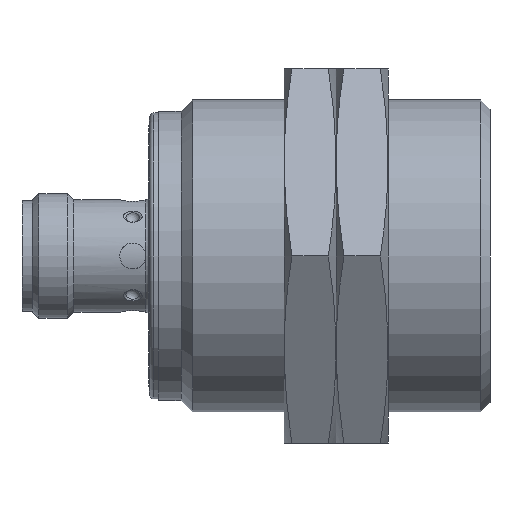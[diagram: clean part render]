
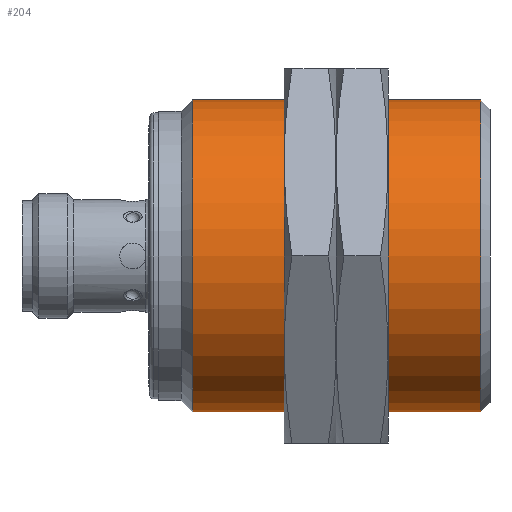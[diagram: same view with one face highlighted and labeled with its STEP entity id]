
A CAD part, front view. The second image highlights one B-rep face of the part: STEP entity #204.
In plain terms, the highlighted cylindrical face has radius 15 mm (diameter 30 mm), a full revolution.
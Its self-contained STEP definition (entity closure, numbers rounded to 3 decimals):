
#204 = ADVANCED_FACE( '', ( #310, #311 ), #312, .T. );
#310 = FACE_OUTER_BOUND( '', #478, .T. );
#311 = FACE_OUTER_BOUND( '', #479, .T. );
#312 = CYLINDRICAL_SURFACE( '', #480, 15. );
#478 = EDGE_LOOP( '', ( #723 ) );
#479 = EDGE_LOOP( '', ( #724 ) );
#480 = AXIS2_PLACEMENT_3D( '', #725, #726, #727 );
#723 = ORIENTED_EDGE( '', *, *, #981, .F. );
#724 = ORIENTED_EDGE( '', *, *, #982, .T. );
#725 = CARTESIAN_POINT( '', ( 45., 0., 0. ) );
#726 = DIRECTION( '', ( -1., 0., 0. ) );
#727 = DIRECTION( '', ( 0., 0., -1. ) );
#981 = EDGE_CURVE( '', #1102, #1102, #1103, .T. );
#982 = EDGE_CURVE( '', #1104, #1104, #1105, .T. );
#1102 = VERTEX_POINT( '', #1568 );
#1103 = CIRCLE( '', #1569, 15. );
#1104 = VERTEX_POINT( '', #1570 );
#1105 = CIRCLE( '', #1571, 15. );
#1568 = CARTESIAN_POINT( '', ( 44.1, 0., -15. ) );
#1569 = AXIS2_PLACEMENT_3D( '', #1938, #1939, #1940 );
#1570 = CARTESIAN_POINT( '', ( 16.4, 0., -15. ) );
#1571 = AXIS2_PLACEMENT_3D( '', #1941, #1942, #1943 );
#1938 = CARTESIAN_POINT( '', ( 44.1, 0., 0. ) );
#1939 = DIRECTION( '', ( 1., 0., 0. ) );
#1940 = DIRECTION( '', ( 0., 0., -1. ) );
#1941 = CARTESIAN_POINT( '', ( 16.4, 0., 0. ) );
#1942 = DIRECTION( '', ( 1., 0., 0. ) );
#1943 = DIRECTION( '', ( 0., 0., -1. ) );
